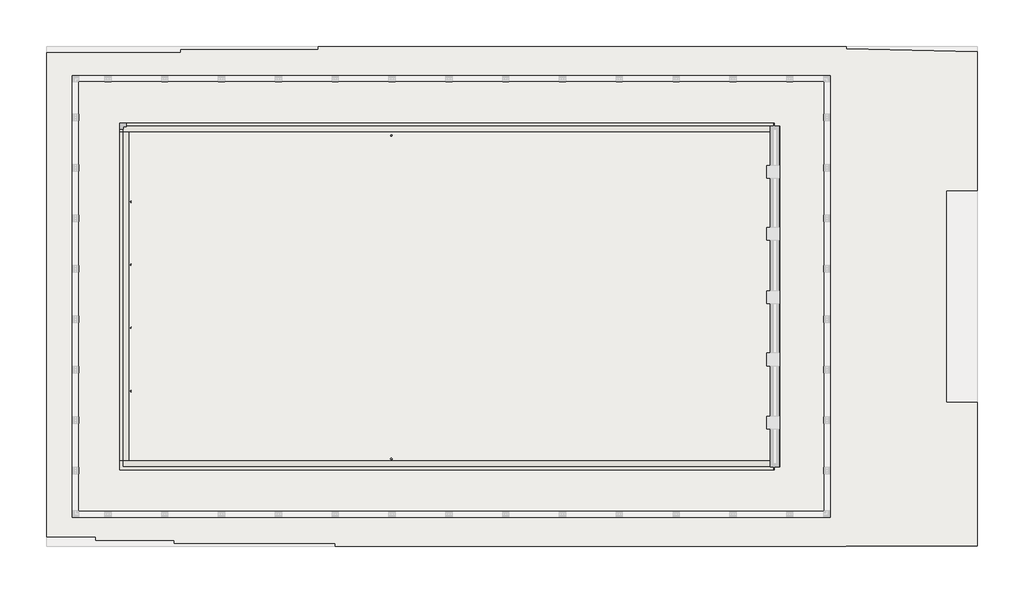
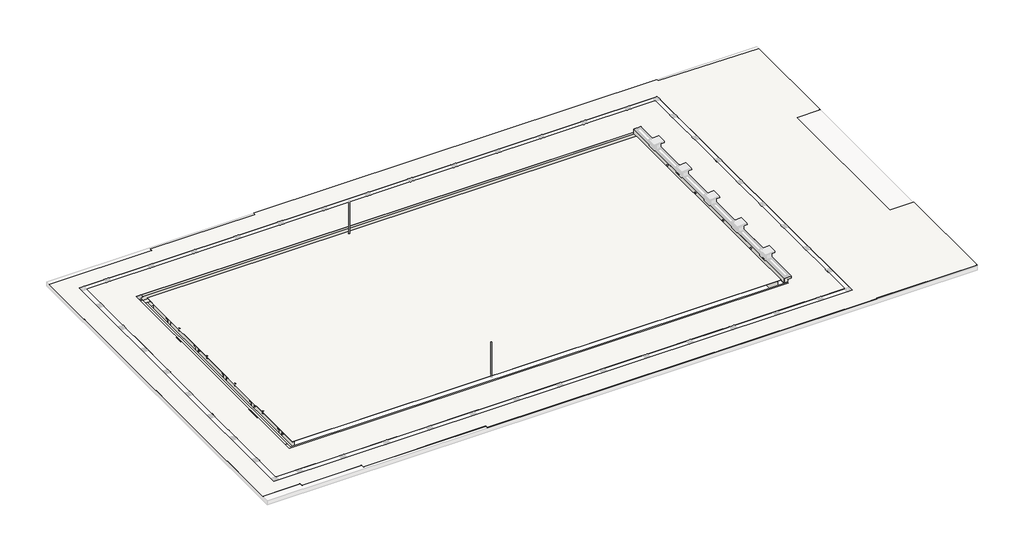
# One storey, part 1 of 2: 58 walls, 3 slabs.
"""IFC4 building model written with IfcOpenShell, lengths in millimetres."""

from ifc_helpers import new_model, si_unit, frame, origin, place, context, project, spatial, polyline, outline, extrude, faceted_brep, element, save

model = new_model("IFC4")

# Units and contexts
model_context = context("Model", 3, world=origin())
ifc_project = project(units=[si_unit("LENGTHUNIT", "METRE", prefix="MILLI")], contexts=[model_context])

# Site, building, storey
site = spatial("IfcSite", under=ifc_project)
building = spatial("IfcBuilding", under=site)
storey = spatial("IfcBuildingStorey", under=building, Name="1_NPlaya", Elevation=-0.4)

# Slabs
placement = place(None, origin())
element("IfcSlab", 1, ObjectType="Pieza 240 G1_Patrón Recto_Aqua_Indubeige_Pastilla", at=placement, inside=storey, context=model_context, shape_type="SweptSolid", body=[
    extrude(outline(polyline([(34679.434436, -40441.2851174), (5179.434436, -40441.2851174), (5179.434436, -23437.5814211), (34679.434436, -23437.5814211), (34679.434436, -40441.2851174)]), holes=[polyline([(32709.4610246, -25071.2511666), (6811.2523334, -25071.2511666), (6811.2523334, -38807.6153718), (32709.4610246, -38807.6153718), (32709.4610246, -38686.5241489), (32748.5344569, -38686.5241489), (32748.5344569, -25184.8423895), (32709.4610246, -25184.8423895), (32709.4610246, -25071.2511666)])]), frame((0.0, 0.0, -9.4), z_axis=(0.0, 0.0, 1.0), x_axis=(1.0, 0.0, 0.0)), (0.0, 0.0, 1.0), 9.0),
])
element("IfcSlab", 2, ObjectType="Pieza 240 G1_Patrón Recto_Aqua_Indubeige_Pastilla", at=placement, inside=storey, context=model_context, shape_type="SweptSolid", body=[
    extrude(outline(polyline([(3904.1150084, -41473.142119), (3904.1150084, -22284.6493469), (9212.926062, -22284.6493469), (9212.926062, -22159.5132537), (14659.6068821, -22159.5132537), (14659.6068821, -22034.3771605), (35576.7187676, -22034.3771605), (35576.7187676, -22128.21266), (40749.7221609, -22237.9898619), (40749.7221609, -27742.3371372), (39520.2946013, -27742.3371372), (39520.2946013, -36141.0489726), (40764.7102398, -36141.0489726), (40764.7102398, -41812.5386541), (35553.3960309, -41812.5386541), (35553.3960309, -41848.5666427), (15336.1978836, -41848.5666427), (15336.1978836, -41723.4167448), (8966.7975365, -41723.4167448), (8966.7975365, -41598.2806516), (5842.6017182, -41598.2806516), (5842.6017182, -41473.142119), (3904.1150084, -41473.142119)]), holes=[polyline([(4929.434436, -23187.5814211), (4929.434436, -40691.2851174), (34929.434436, -40691.2851174), (34929.434436, -23187.5814211), (4929.434436, -23187.5814211)])]), frame((0.0, 0.0, -9.4), z_axis=(0.0, 0.0, 1.0), x_axis=(1.0, 0.0, 0.0)), (0.0, 0.0, 1.0), 9.0),
])
element("IfcSlab", 3, ObjectType="Agua", at=placement, inside=storey, context=model_context, shape_type="SweptSolid", body=[
    extrude(outline(polyline([(32558.5344569, -25429.8423895), (32558.5344569, -38441.5241489), (7177.3435564, -38441.5241489), (7177.3435564, -25429.8423895), (32558.5344569, -25429.8423895)])), frame((0.0, 0.0, -1.4), z_axis=(0.0, 0.0, 1.0), x_axis=(1.0, 0.0, 0.0)), (0.0, 0.0, 1.0), 1.0),
])

# Walls
element("IfcWall", 4, ObjectType="Pieza 122 G1_Patrón Recto_Aqua_Marino_Liso", at=placement, inside=storey, context=model_context, shape_type="SweptSolid", body=[
    extrude(outline(polyline([(8297.6514198, -25680.4332692), (31561.2174523, -25680.4332692), (31561.2174523, -25689.4332692), (8297.6514198, -25689.4332692), (8297.6514198, -25680.4332692)])), frame((0.0, 0.0, -162.4), z_axis=(0.0, 0.0, 1.0), x_axis=(1.0, 0.0, 0.0)), (0.0, 0.0, 1.0), 125.0),
])
element("IfcWall", 5, ObjectType="Pieza 122 G1_Patrón Recto_Aqua_Azul_Anti-Slip", at=placement, inside=storey, context=model_context, shape_type="SweptSolid", body=[
    extrude(outline(polyline([(-38189.4332692, -912.4), (-38189.4332692, -162.4), (-37219.4598578, -162.4), (-37219.4598578, -412.4), (-37094.4598578, -412.4), (-37094.4598578, -912.4), (-38189.4332692, -912.4)])), frame((7420.434436, 0.0, 0.0), z_axis=(1.0, 0.0, 0.0), x_axis=(0.0, 1.0, 0.0)), (0.0, 0.0, 1.0), 9.0),
])
element("IfcWall", 6, ObjectType="Pieza 122 G1_Patrón Recto_Aqua_Azul_Anti-Slip", at=placement, inside=storey, context=model_context, shape_type="SweptSolid", body=[
    extrude(outline(polyline([(-36844.4598578, -912.4), (-36844.4598578, -412.4), (-36719.4598578, -412.4), (-36719.4598578, -162.4), (-34719.4598578, -162.4), (-34719.4598578, -412.4), (-34594.4598578, -412.4), (-34594.4598578, -912.4), (-36844.4598578, -912.4)])), frame((7420.434436, 0.0, 0.0), z_axis=(1.0, 0.0, 0.0), x_axis=(0.0, 1.0, 0.0)), (0.0, 0.0, 1.0), 9.0),
])
element("IfcWall", 7, ObjectType="Pieza 122 G1_Patrón Recto_Aqua_Marino_Anti-Slip", at=placement, inside=storey, context=model_context, shape_type="SweptSolid", body=[
    extrude(outline(polyline([(-37094.4598578, -162.4), (-37094.4598578, -37.4), (-36844.4598578, -37.4), (-36844.4598578, -162.4), (-36719.4598578, -162.4), (-36719.4598578, -412.4), (-36844.4598578, -412.4), (-36844.4598578, -912.4), (-37094.4598578, -912.4), (-37094.4598578, -412.4), (-37219.4598578, -412.4), (-37219.4598578, -162.4), (-37094.4598578, -162.4)])), frame((7420.434436, 0.0, 0.0), z_axis=(1.0, 0.0, 0.0), x_axis=(0.0, 1.0, 0.0)), (0.0, 0.0, 1.0), 9.0),
])
element("IfcWall", 8, ObjectType="Pieza 122 G1_Patrón Recto_Aqua_Marino_Anti-Slip", at=placement, inside=storey, context=model_context, shape_type="SweptSolid", body=[
    extrude(outline(polyline([(-34594.4598578, -162.4), (-34594.4598578, -37.4), (-34344.4598578, -37.4), (-34344.4598578, -162.4), (-34219.4598578, -162.4), (-34219.4598578, -412.4), (-34344.4598578, -412.4), (-34344.4598578, -912.4), (-34594.4598578, -912.4), (-34594.4598578, -412.4), (-34719.4598578, -412.4), (-34719.4598578, -162.4), (-34594.4598578, -162.4)])), frame((7420.434436, 0.0, 0.0), z_axis=(1.0, 0.0, 0.0), x_axis=(0.0, 1.0, 0.0)), (0.0, 0.0, 1.0), 9.0),
])
element("IfcWall", 9, ObjectType="Pieza 122 G1_Patrón Recto_Aqua_Marino_Anti-Slip", at=placement, inside=storey, context=model_context, shape_type="SweptSolid", body=[
    extrude(outline(polyline([(-32094.4598578, -162.4), (-32094.4598578, -37.4), (-31844.4598578, -37.4), (-31844.4598578, -162.4), (-31719.4598578, -162.4), (-31719.4598578, -412.4), (-31844.4598578, -412.4), (-31844.4598578, -912.4), (-32094.4598578, -912.4), (-32094.4598578, -412.4), (-32219.4598578, -412.4), (-32219.4598578, -162.4), (-32094.4598578, -162.4)])), frame((7420.434436, 0.0, 0.0), z_axis=(1.0, 0.0, 0.0), x_axis=(0.0, 1.0, 0.0)), (0.0, 0.0, 1.0), 9.0),
])
element("IfcWall", 10, ObjectType="Pieza 122 G1_Patrón Recto_Aqua_Marino_Anti-Slip", at=placement, inside=storey, context=model_context, shape_type="SweptSolid", body=[
    extrude(outline(polyline([(-29594.4598578, -162.4), (-29594.4598578, -37.4), (-29344.4598578, -37.4), (-29344.4598578, -162.4), (-29219.4598578, -162.4), (-29219.4598578, -412.4), (-29344.4598578, -412.4), (-29344.4598578, -912.4), (-29594.4598578, -912.4), (-29594.4598578, -412.4), (-29719.4598578, -412.4), (-29719.4598578, -162.4), (-29594.4598578, -162.4)])), frame((7420.434436, 0.0, 0.0), z_axis=(1.0, 0.0, 0.0), x_axis=(0.0, 1.0, 0.0)), (0.0, 0.0, 1.0), 9.0),
])
element("IfcWall", 11, ObjectType="Pieza 122 G1_Patrón Recto_Aqua_Marino_Anti-Slip", at=placement, inside=storey, context=model_context, shape_type="SweptSolid", body=[
    extrude(outline(polyline([(-27094.4598578, -162.4), (-27094.4598578, -37.4), (-26844.4598578, -37.4), (-26844.4598578, -162.4), (-26719.4598578, -162.4), (-26719.4598578, -412.4), (-26844.4598578, -412.4), (-26844.4598578, -912.4), (-27094.4598578, -912.4), (-27094.4598578, -412.4), (-27219.4598578, -412.4), (-27219.4598578, -162.4), (-27094.4598578, -162.4)])), frame((7420.434436, 0.0, 0.0), z_axis=(1.0, 0.0, 0.0), x_axis=(0.0, 1.0, 0.0)), (0.0, 0.0, 1.0), 9.0),
])
element("IfcWall", 12, ObjectType="Pieza 122 G1_Patrón Recto_Aqua_Azul_Anti-Slip", at=placement, inside=storey, context=model_context, shape_type="SweptSolid", body=[
    extrude(outline(polyline([(-34344.4598578, -912.4), (-34344.4598578, -412.4), (-34219.4598578, -412.4), (-34219.4598578, -162.4), (-32219.4598578, -162.4), (-32219.4598578, -412.4), (-32094.4598578, -412.4), (-32094.4598578, -912.4), (-34344.4598578, -912.4)])), frame((7420.434436, 0.0, 0.0), z_axis=(1.0, 0.0, 0.0), x_axis=(0.0, 1.0, 0.0)), (0.0, 0.0, 1.0), 9.0),
])
element("IfcWall", 13, ObjectType="Pieza 122 G1_Patrón Recto_Aqua_Azul_Anti-Slip", at=placement, inside=storey, context=model_context, shape_type="SweptSolid", body=[
    extrude(outline(polyline([(-31844.4598578, -912.4), (-31844.4598578, -412.4), (-31719.4598578, -412.4), (-31719.4598578, -162.4), (-29719.4598578, -162.4), (-29719.4598578, -412.4), (-29594.4598578, -412.4), (-29594.4598578, -912.4), (-31844.4598578, -912.4)])), frame((7420.434436, 0.0, 0.0), z_axis=(1.0, 0.0, 0.0), x_axis=(0.0, 1.0, 0.0)), (0.0, 0.0, 1.0), 9.0),
])
element("IfcWall", 14, ObjectType="Pieza 122 G1_Patrón Recto_Aqua_Azul_Anti-Slip", at=placement, inside=storey, context=model_context, shape_type="SweptSolid", body=[
    extrude(outline(polyline([(-29344.4598578, -912.4), (-29344.4598578, -412.4), (-29219.4598578, -412.4), (-29219.4598578, -162.4), (-27219.4598578, -162.4), (-27219.4598578, -412.4), (-27094.4598578, -412.4), (-27094.4598578, -912.4), (-29344.4598578, -912.4)])), frame((7420.434436, 0.0, 0.0), z_axis=(1.0, 0.0, 0.0), x_axis=(0.0, 1.0, 0.0)), (0.0, 0.0, 1.0), 9.0),
])
element("IfcWall", 15, ObjectType="Pieza 122 G1_Patrón Recto_Aqua_Azul_Anti-Slip", at=placement, inside=storey, context=model_context, shape_type="SweptSolid", body=[
    extrude(outline(polyline([(-26844.4598578, -912.4), (-26844.4598578, -412.4), (-26719.4598578, -412.4), (-26719.4598578, -162.4), (-25560.5970423, -162.4), (-25560.5970423, -912.4), (-26844.4598578, -912.4)])), frame((7420.434436, 0.0, 0.0), z_axis=(1.0, 0.0, 0.0), x_axis=(0.0, 1.0, 0.0)), (0.0, 0.0, 1.0), 9.0),
])
element("IfcWall", 16, ObjectType="Pieza 122 G1_Patrón Recto_Aqua_Azul_Anti-Slip", at=placement, inside=storey, context=model_context, shape_type="SweptSolid", body=[
    extrude(outline(polyline([(7429.434436, -37094.4598578), (7429.434436, -37219.4598578), (7420.434436, -37219.4598578), (7420.434436, -37094.4598578), (7429.434436, -37094.4598578)])), frame((0.0, 0.0, -162.4), z_axis=(0.0, 0.0, 1.0), x_axis=(1.0, 0.0, 0.0)), (0.0, 0.0, 1.0), 125.0),
])
element("IfcWall", 17, ObjectType="Pieza 122 G1_Patrón Recto_Aqua_Azul_Anti-Slip", at=placement, inside=storey, context=model_context, shape_type="SweptSolid", body=[
    extrude(outline(polyline([(7429.434436, -36719.4598578), (7429.434436, -36844.4598578), (7420.434436, -36844.4598578), (7420.434436, -36719.4598578), (7429.434436, -36719.4598578)])), frame((0.0, 0.0, -162.4), z_axis=(0.0, 0.0, 1.0), x_axis=(1.0, 0.0, 0.0)), (0.0, 0.0, 1.0), 125.0),
])
element("IfcWall", 18, ObjectType="Pieza 122 G1_Patrón Recto_Aqua_Azul_Anti-Slip", at=placement, inside=storey, context=model_context, shape_type="SweptSolid", body=[
    extrude(outline(polyline([(7429.434436, -34594.4598578), (7429.434436, -34719.4598578), (7420.434436, -34719.4598578), (7420.434436, -34594.4598578), (7429.434436, -34594.4598578)])), frame((0.0, 0.0, -162.4), z_axis=(0.0, 0.0, 1.0), x_axis=(1.0, 0.0, 0.0)), (0.0, 0.0, 1.0), 125.0),
])
element("IfcWall", 19, ObjectType="Pieza 122 G1_Patrón Recto_Aqua_Azul_Anti-Slip", at=placement, inside=storey, context=model_context, shape_type="SweptSolid", body=[
    extrude(outline(polyline([(7429.434436, -34219.4598578), (7429.434436, -34344.4598578), (7420.434436, -34344.4598578), (7420.434436, -34219.4598578), (7429.434436, -34219.4598578)])), frame((0.0, 0.0, -162.4), z_axis=(0.0, 0.0, 1.0), x_axis=(1.0, 0.0, 0.0)), (0.0, 0.0, 1.0), 125.0),
])
element("IfcWall", 20, ObjectType="Pieza 122 G1_Patrón Recto_Aqua_Azul_Anti-Slip", at=placement, inside=storey, context=model_context, shape_type="SweptSolid", body=[
    extrude(outline(polyline([(7429.434436, -32094.4598578), (7429.434436, -32219.4598578), (7420.434436, -32219.4598578), (7420.434436, -32094.4598578), (7429.434436, -32094.4598578)])), frame((0.0, 0.0, -162.4), z_axis=(0.0, 0.0, 1.0), x_axis=(1.0, 0.0, 0.0)), (0.0, 0.0, 1.0), 125.0),
])
element("IfcWall", 21, ObjectType="Pieza 122 G1_Patrón Recto_Aqua_Azul_Anti-Slip", at=placement, inside=storey, context=model_context, shape_type="SweptSolid", body=[
    extrude(outline(polyline([(7429.434436, -31719.4598578), (7429.434436, -31844.4598578), (7420.434436, -31844.4598578), (7420.434436, -31719.4598578), (7429.434436, -31719.4598578)])), frame((0.0, 0.0, -162.4), z_axis=(0.0, 0.0, 1.0), x_axis=(1.0, 0.0, 0.0)), (0.0, 0.0, 1.0), 125.0),
])
element("IfcWall", 22, ObjectType="Pieza 122 G1_Patrón Recto_Aqua_Azul_Anti-Slip", at=placement, inside=storey, context=model_context, shape_type="SweptSolid", body=[
    extrude(outline(polyline([(7429.434436, -29594.4598578), (7429.434436, -29719.4598578), (7420.434436, -29719.4598578), (7420.434436, -29594.4598578), (7429.434436, -29594.4598578)])), frame((0.0, 0.0, -162.4), z_axis=(0.0, 0.0, 1.0), x_axis=(1.0, 0.0, 0.0)), (0.0, 0.0, 1.0), 125.0),
])
element("IfcWall", 23, ObjectType="Pieza 122 G1_Patrón Recto_Aqua_Azul_Anti-Slip", at=placement, inside=storey, context=model_context, shape_type="SweptSolid", body=[
    extrude(outline(polyline([(7429.434436, -29219.4598578), (7429.434436, -29344.4598578), (7420.434436, -29344.4598578), (7420.434436, -29219.4598578), (7429.434436, -29219.4598578)])), frame((0.0, 0.0, -162.4), z_axis=(0.0, 0.0, 1.0), x_axis=(1.0, 0.0, 0.0)), (0.0, 0.0, 1.0), 125.0),
])
element("IfcWall", 24, ObjectType="Pieza 122 G1_Patrón Recto_Aqua_Azul_Anti-Slip", at=placement, inside=storey, context=model_context, shape_type="SweptSolid", body=[
    extrude(outline(polyline([(7429.434436, -27094.4598578), (7429.434436, -27219.4598578), (7420.434436, -27219.4598578), (7420.434436, -27094.4598578), (7429.434436, -27094.4598578)])), frame((0.0, 0.0, -162.4), z_axis=(0.0, 0.0, 1.0), x_axis=(1.0, 0.0, 0.0)), (0.0, 0.0, 1.0), 125.0),
])
element("IfcWall", 25, ObjectType="Pieza 122 G1_Patrón Recto_Aqua_Azul_Anti-Slip", at=placement, inside=storey, context=model_context, shape_type="SweptSolid", body=[
    extrude(outline(polyline([(7429.434436, -26719.4598578), (7429.434436, -26844.4598578), (7420.434436, -26844.4598578), (7420.434436, -26719.4598578), (7429.434436, -26719.4598578)])), frame((0.0, 0.0, -162.4), z_axis=(0.0, 0.0, 1.0), x_axis=(1.0, 0.0, 0.0)), (0.0, 0.0, 1.0), 125.0),
])
element("IfcWall", 26, ObjectType="Pieza 122 G1_Patrón Recto_Aqua_Azul_Anti-Slip", at=placement, inside=storey, context=model_context, shape_type="SweptSolid", body=[
    extrude(outline(polyline([(-25560.5970423, -912.4), (-26844.4598578, -912.4), (-26844.4598578, -412.4), (-26719.4598578, -412.4), (-26719.4598578, -162.4), (-25560.5970423, -162.4), (-25560.5970423, -912.4)])), frame((32429.434436, 0.0, 0.0), z_axis=(1.0, 0.0, 0.0), x_axis=(0.0, 1.0, 0.0)), (0.0, 0.0, 1.0), 9.0),
])
element("IfcWall", 27, ObjectType="Pieza 122 G1_Patrón Recto_Aqua_Azul_Anti-Slip", at=placement, inside=storey, context=model_context, shape_type="SweptSolid", body=[
    extrude(outline(polyline([(-27094.4598578, -912.4), (-29344.4598578, -912.4), (-29344.4598578, -412.4), (-29219.4598578, -412.4), (-29219.4598578, -162.4), (-27219.4598578, -162.4), (-27219.4598578, -412.4), (-27094.4598578, -412.4), (-27094.4598578, -912.4)])), frame((32429.434436, 0.0, 0.0), z_axis=(1.0, 0.0, 0.0), x_axis=(0.0, 1.0, 0.0)), (0.0, 0.0, 1.0), 9.0),
])
element("IfcWall", 28, ObjectType="Pieza 122 G1_Patrón Recto_Aqua_Marino_Anti-Slip", at=placement, inside=storey, context=model_context, shape_type="SweptSolid", body=[
    extrude(outline(polyline([(-26844.4598578, -162.4), (-26719.4598578, -162.4), (-26719.4598578, -412.4), (-26844.4598578, -412.4), (-26844.4598578, -912.4), (-27094.4598578, -912.4), (-27094.4598578, -412.4), (-27219.4598578, -412.4), (-27219.4598578, -162.4), (-27094.4598578, -162.4), (-27094.4598578, -37.4), (-26844.4598578, -37.4), (-26844.4598578, -162.4)])), frame((32429.434436, 0.0, 0.0), z_axis=(1.0, 0.0, 0.0), x_axis=(0.0, 1.0, 0.0)), (0.0, 0.0, 1.0), 9.0),
])
element("IfcWall", 29, ObjectType="Pieza 122 G1_Patrón Recto_Aqua_Marino_Anti-Slip", at=placement, inside=storey, context=model_context, shape_type="SweptSolid", body=[
    extrude(outline(polyline([(-29344.4598578, -162.4), (-29219.4598578, -162.4), (-29219.4598578, -412.4), (-29344.4598578, -412.4), (-29344.4598578, -912.4), (-29594.4598578, -912.4), (-29594.4598578, -412.4), (-29719.4598578, -412.4), (-29719.4598578, -162.4), (-29594.4598578, -162.4), (-29594.4598578, -37.4), (-29344.4598578, -37.4), (-29344.4598578, -162.4)])), frame((32429.434436, 0.0, 0.0), z_axis=(1.0, 0.0, 0.0), x_axis=(0.0, 1.0, 0.0)), (0.0, 0.0, 1.0), 9.0),
])
element("IfcWall", 30, ObjectType="Pieza 122 G1_Patrón Recto_Aqua_Marino_Anti-Slip", at=placement, inside=storey, context=model_context, shape_type="SweptSolid", body=[
    extrude(outline(polyline([(-31844.4598578, -162.4), (-31719.4598578, -162.4), (-31719.4598578, -412.4), (-31844.4598578, -412.4), (-31844.4598578, -912.4), (-32094.4598578, -912.4), (-32094.4598578, -412.4), (-32219.4598578, -412.4), (-32219.4598578, -162.4), (-32094.4598578, -162.4), (-32094.4598578, -37.4), (-31844.4598578, -37.4), (-31844.4598578, -162.4)])), frame((32429.434436, 0.0, 0.0), z_axis=(1.0, 0.0, 0.0), x_axis=(0.0, 1.0, 0.0)), (0.0, 0.0, 1.0), 9.0),
])
element("IfcWall", 31, ObjectType="Pieza 122 G1_Patrón Recto_Aqua_Marino_Anti-Slip", at=placement, inside=storey, context=model_context, shape_type="SweptSolid", body=[
    extrude(outline(polyline([(-34344.4598578, -162.4), (-34219.4598578, -162.4), (-34219.4598578, -412.4), (-34344.4598578, -412.4), (-34344.4598578, -912.4), (-34594.4598578, -912.4), (-34594.4598578, -412.4), (-34719.4598578, -412.4), (-34719.4598578, -162.4), (-34594.4598578, -162.4), (-34594.4598578, -37.4), (-34344.4598578, -37.4), (-34344.4598578, -162.4)])), frame((32429.434436, 0.0, 0.0), z_axis=(1.0, 0.0, 0.0), x_axis=(0.0, 1.0, 0.0)), (0.0, 0.0, 1.0), 9.0),
])
element("IfcWall", 32, ObjectType="Pieza 122 G1_Patrón Recto_Aqua_Marino_Anti-Slip", at=placement, inside=storey, context=model_context, shape_type="SweptSolid", body=[
    extrude(outline(polyline([(-36844.4598578, -162.4), (-36719.4598578, -162.4), (-36719.4598578, -412.4), (-36844.4598578, -412.4), (-36844.4598578, -912.4), (-37094.4598578, -912.4), (-37094.4598578, -412.4), (-37219.4598578, -412.4), (-37219.4598578, -162.4), (-37094.4598578, -162.4), (-37094.4598578, -37.4), (-36844.4598578, -37.4), (-36844.4598578, -162.4)])), frame((32429.434436, 0.0, 0.0), z_axis=(1.0, 0.0, 0.0), x_axis=(0.0, 1.0, 0.0)), (0.0, 0.0, 1.0), 9.0),
])
element("IfcWall", 33, ObjectType="Pieza 122 G1_Patrón Recto_Aqua_Azul_Anti-Slip", at=placement, inside=storey, context=model_context, shape_type="SweptSolid", body=[
    extrude(outline(polyline([(-29594.4598578, -912.4), (-31844.4598578, -912.4), (-31844.4598578, -412.4), (-31719.4598578, -412.4), (-31719.4598578, -162.4), (-29719.4598578, -162.4), (-29719.4598578, -412.4), (-29594.4598578, -412.4), (-29594.4598578, -912.4)])), frame((32429.434436, 0.0, 0.0), z_axis=(1.0, 0.0, 0.0), x_axis=(0.0, 1.0, 0.0)), (0.0, 0.0, 1.0), 9.0),
])
element("IfcWall", 34, ObjectType="Pieza 122 G1_Patrón Recto_Aqua_Azul_Anti-Slip", at=placement, inside=storey, context=model_context, shape_type="SweptSolid", body=[
    extrude(outline(polyline([(-32094.4598578, -912.4), (-34344.4598578, -912.4), (-34344.4598578, -412.4), (-34219.4598578, -412.4), (-34219.4598578, -162.4), (-32219.4598578, -162.4), (-32219.4598578, -412.4), (-32094.4598578, -412.4), (-32094.4598578, -912.4)])), frame((32429.434436, 0.0, 0.0), z_axis=(1.0, 0.0, 0.0), x_axis=(0.0, 1.0, 0.0)), (0.0, 0.0, 1.0), 9.0),
])
element("IfcWall", 35, ObjectType="Pieza 122 G1_Patrón Recto_Aqua_Azul_Anti-Slip", at=placement, inside=storey, context=model_context, shape_type="SweptSolid", body=[
    extrude(outline(polyline([(-34594.4598578, -912.4), (-36844.4598578, -912.4), (-36844.4598578, -412.4), (-36719.4598578, -412.4), (-36719.4598578, -162.4), (-34719.4598578, -162.4), (-34719.4598578, -412.4), (-34594.4598578, -412.4), (-34594.4598578, -912.4)])), frame((32429.434436, 0.0, 0.0), z_axis=(1.0, 0.0, 0.0), x_axis=(0.0, 1.0, 0.0)), (0.0, 0.0, 1.0), 9.0),
])
element("IfcWall", 36, ObjectType="Pieza 122 G1_Patrón Recto_Aqua_Azul_Anti-Slip", at=placement, inside=storey, context=model_context, shape_type="SweptSolid", body=[
    extrude(outline(polyline([(-37094.4598578, -912.4), (-38318.2532396, -912.4), (-38318.2532396, -162.4), (-37219.4598578, -162.4), (-37219.4598578, -412.4), (-37094.4598578, -412.4), (-37094.4598578, -912.4)])), frame((32429.434436, 0.0, 0.0), z_axis=(1.0, 0.0, 0.0), x_axis=(0.0, 1.0, 0.0)), (0.0, 0.0, 1.0), 9.0),
])
element("IfcWall", 37, ObjectType="Pieza 122 G1_Patrón Recto_Aqua_Marino_Anti-Slip", at=placement, inside=storey, context=model_context, shape_type="SweptSolid", body=[
    extrude(outline(polyline([(32429.434436, -26719.4598578), (32429.434436, -25560.5970423), (32438.434436, -25560.5970423), (32438.434436, -26719.4598578), (32429.434436, -26719.4598578)])), frame((0.0, 0.0, -162.4), z_axis=(0.0, 0.0, 1.0), x_axis=(1.0, 0.0, 0.0)), (0.0, 0.0, 1.0), 125.0),
])
element("IfcWall", 38, ObjectType="Pieza 122 G1_Patrón Recto_Aqua_Marino_Anti-Slip", at=placement, inside=storey, context=model_context, shape_type="SweptSolid", body=[
    extrude(outline(polyline([(32429.434436, -29219.4598578), (32429.434436, -27219.4598578), (32438.434436, -27219.4598578), (32438.434436, -29219.4598578), (32429.434436, -29219.4598578)])), frame((0.0, 0.0, -162.4), z_axis=(0.0, 0.0, 1.0), x_axis=(1.0, 0.0, 0.0)), (0.0, 0.0, 1.0), 125.0),
])
element("IfcWall", 39, ObjectType="Pieza 122 G1_Patrón Recto_Aqua_Marino_Anti-Slip", at=placement, inside=storey, context=model_context, shape_type="SweptSolid", body=[
    extrude(outline(polyline([(32429.434436, -31719.4598578), (32429.434436, -29719.4598578), (32438.434436, -29719.4598578), (32438.434436, -31719.4598578), (32429.434436, -31719.4598578)])), frame((0.0, 0.0, -162.4), z_axis=(0.0, 0.0, 1.0), x_axis=(1.0, 0.0, 0.0)), (0.0, 0.0, 1.0), 125.0),
])
element("IfcWall", 40, ObjectType="Pieza 122 G1_Patrón Recto_Aqua_Marino_Anti-Slip", at=placement, inside=storey, context=model_context, shape_type="SweptSolid", body=[
    extrude(outline(polyline([(32429.434436, -34219.4598578), (32429.434436, -32219.4598578), (32438.434436, -32219.4598578), (32438.434436, -34219.4598578), (32429.434436, -34219.4598578)])), frame((0.0, 0.0, -162.4), z_axis=(0.0, 0.0, 1.0), x_axis=(1.0, 0.0, 0.0)), (0.0, 0.0, 1.0), 125.0),
])
element("IfcWall", 41, ObjectType="Pieza 122 G1_Patrón Recto_Aqua_Marino_Anti-Slip", at=placement, inside=storey, context=model_context, shape_type="SweptSolid", body=[
    extrude(outline(polyline([(32429.434436, -36719.4598578), (32429.434436, -34719.4598578), (32438.434436, -34719.4598578), (32438.434436, -36719.4598578), (32429.434436, -36719.4598578)])), frame((0.0, 0.0, -162.4), z_axis=(0.0, 0.0, 1.0), x_axis=(1.0, 0.0, 0.0)), (0.0, 0.0, 1.0), 125.0),
])
element("IfcWall", 42, ObjectType="Pieza 122 G1_Patrón Recto_Aqua_Marino_Anti-Slip", at=placement, inside=storey, context=model_context, shape_type="SweptSolid", body=[
    extrude(outline(polyline([(32429.434436, -38318.2532396), (32429.434436, -37219.4598578), (32438.434436, -37219.4598578), (32438.434436, -38318.2532396), (32429.434436, -38318.2532396)])), frame((0.0, 0.0, -162.4), z_axis=(0.0, 0.0, 1.0), x_axis=(1.0, 0.0, 0.0)), (0.0, 0.0, 1.0), 125.0),
])
element("IfcWall", 43, ObjectType="Pieza 122 G1_Patrón Recto_Aqua_Azul_Anti-Slip", at=placement, inside=storey, context=model_context, shape_type="SweptSolid", body=[
    extrude(outline(polyline([(32429.434436, -26844.4598578), (32429.434436, -26719.4598578), (32438.434436, -26719.4598578), (32438.434436, -26844.4598578), (32429.434436, -26844.4598578)])), frame((0.0, 0.0, -162.4), z_axis=(0.0, 0.0, 1.0), x_axis=(1.0, 0.0, 0.0)), (0.0, 0.0, 1.0), 125.0),
])
element("IfcWall", 44, ObjectType="Pieza 122 G1_Patrón Recto_Aqua_Azul_Anti-Slip", at=placement, inside=storey, context=model_context, shape_type="SweptSolid", body=[
    extrude(outline(polyline([(32429.434436, -27219.4598578), (32429.434436, -27094.4598578), (32438.434436, -27094.4598578), (32438.434436, -27219.4598578), (32429.434436, -27219.4598578)])), frame((0.0, 0.0, -162.4), z_axis=(0.0, 0.0, 1.0), x_axis=(1.0, 0.0, 0.0)), (0.0, 0.0, 1.0), 125.0),
])
element("IfcWall", 45, ObjectType="Pieza 122 G1_Patrón Recto_Aqua_Azul_Anti-Slip", at=placement, inside=storey, context=model_context, shape_type="SweptSolid", body=[
    extrude(outline(polyline([(32429.434436, -29344.4598578), (32429.434436, -29219.4598578), (32438.434436, -29219.4598578), (32438.434436, -29344.4598578), (32429.434436, -29344.4598578)])), frame((0.0, 0.0, -162.4), z_axis=(0.0, 0.0, 1.0), x_axis=(1.0, 0.0, 0.0)), (0.0, 0.0, 1.0), 125.0),
])
element("IfcWall", 46, ObjectType="Pieza 122 G1_Patrón Recto_Aqua_Azul_Anti-Slip", at=placement, inside=storey, context=model_context, shape_type="SweptSolid", body=[
    extrude(outline(polyline([(32429.434436, -29719.4598578), (32429.434436, -29594.4598578), (32438.434436, -29594.4598578), (32438.434436, -29719.4598578), (32429.434436, -29719.4598578)])), frame((0.0, 0.0, -162.4), z_axis=(0.0, 0.0, 1.0), x_axis=(1.0, 0.0, 0.0)), (0.0, 0.0, 1.0), 125.0),
])
element("IfcWall", 47, ObjectType="Pieza 122 G1_Patrón Recto_Aqua_Azul_Anti-Slip", at=placement, inside=storey, context=model_context, shape_type="SweptSolid", body=[
    extrude(outline(polyline([(32429.434436, -31844.4598578), (32429.434436, -31719.4598578), (32438.434436, -31719.4598578), (32438.434436, -31844.4598578), (32429.434436, -31844.4598578)])), frame((0.0, 0.0, -162.4), z_axis=(0.0, 0.0, 1.0), x_axis=(1.0, 0.0, 0.0)), (0.0, 0.0, 1.0), 125.0),
])
element("IfcWall", 48, ObjectType="Pieza 122 G1_Patrón Recto_Aqua_Azul_Anti-Slip", at=placement, inside=storey, context=model_context, shape_type="SweptSolid", body=[
    extrude(outline(polyline([(32429.434436, -32219.4598578), (32429.434436, -32094.4598578), (32438.434436, -32094.4598578), (32438.434436, -32219.4598578), (32429.434436, -32219.4598578)])), frame((0.0, 0.0, -162.4), z_axis=(0.0, 0.0, 1.0), x_axis=(1.0, 0.0, 0.0)), (0.0, 0.0, 1.0), 125.0),
])
element("IfcWall", 49, ObjectType="Pieza 122 G1_Patrón Recto_Aqua_Azul_Anti-Slip", at=placement, inside=storey, context=model_context, shape_type="SweptSolid", body=[
    extrude(outline(polyline([(32429.434436, -34344.4598578), (32429.434436, -34219.4598578), (32438.434436, -34219.4598578), (32438.434436, -34344.4598578), (32429.434436, -34344.4598578)])), frame((0.0, 0.0, -162.4), z_axis=(0.0, 0.0, 1.0), x_axis=(1.0, 0.0, 0.0)), (0.0, 0.0, 1.0), 125.0),
])
element("IfcWall", 50, ObjectType="Pieza 122 G1_Patrón Recto_Aqua_Azul_Anti-Slip", at=placement, inside=storey, context=model_context, shape_type="SweptSolid", body=[
    extrude(outline(polyline([(32429.434436, -34719.4598578), (32429.434436, -34594.4598578), (32438.434436, -34594.4598578), (32438.434436, -34719.4598578), (32429.434436, -34719.4598578)])), frame((0.0, 0.0, -162.4), z_axis=(0.0, 0.0, 1.0), x_axis=(1.0, 0.0, 0.0)), (0.0, 0.0, 1.0), 125.0),
])
element("IfcWall", 51, ObjectType="Pieza 122 G1_Patrón Recto_Aqua_Azul_Anti-Slip", at=placement, inside=storey, context=model_context, shape_type="SweptSolid", body=[
    extrude(outline(polyline([(32429.434436, -36844.4598578), (32429.434436, -36719.4598578), (32438.434436, -36719.4598578), (32438.434436, -36844.4598578), (32429.434436, -36844.4598578)])), frame((0.0, 0.0, -162.4), z_axis=(0.0, 0.0, 1.0), x_axis=(1.0, 0.0, 0.0)), (0.0, 0.0, 1.0), 125.0),
])
element("IfcWall", 52, ObjectType="Pieza 122 G1_Patrón Recto_Aqua_Azul_Anti-Slip", at=placement, inside=storey, context=model_context, shape_type="SweptSolid", body=[
    extrude(outline(polyline([(32429.434436, -37219.4598578), (32429.434436, -37094.4598578), (32438.434436, -37094.4598578), (32438.434436, -37219.4598578), (32429.434436, -37219.4598578)])), frame((0.0, 0.0, -162.4), z_axis=(0.0, 0.0, 1.0), x_axis=(1.0, 0.0, 0.0)), (0.0, 0.0, 1.0), 125.0),
])
element("IfcWall", 53, ObjectType="Pieza 122 G1_Patrón Recto_Aqua_Azul_Liso", at=placement, inside=storey, context=model_context, shape_type="Brep", body=[
    faceted_brep([(32558.5344569, -38686.5241489, -0.4), (32748.5344569, -38686.5241489, -0.4), (32748.5344569, -38686.5241489, 119.6), (32928.8615326, -38686.5241489, 119.6), (32928.8615326, -38686.5241489, 240.6), (32558.5344569, -38686.5241489, 240.6), (32558.5344569, -38677.5241489, -0.4), (32558.5344569, -38677.5241489, 240.6), (32567.5344569, -38677.5241489, 240.6), (32919.8615326, -38677.5241489, 240.6), (32928.8615326, -38677.5241489, 240.6), (32928.8615326, -38677.5241489, 119.6), (32919.8615326, -38677.5241489, 119.6), (32748.5344569, -38677.5241489, 119.6), (32748.5344569, -38677.5241489, -0.4), (32739.5344569, -38677.5241489, -0.4)], [[[0, 1, 2, 3, 4, 5]], [[6, 7, 8, 9, 10, 11, 12, 13, 14, 15]], [[0, 5, 7, 6]], [[4, 3, 11, 10]], [[1, 0, 6, 15, 14]], [[5, 4, 10, 9, 8, 7]], [[3, 2, 13, 12, 11]], [[2, 1, 14, 13]]]),
])
element("IfcWall", 54, ObjectType="Pieza 122 G1_Patrón Recto_Aqua_Azul_Liso", at=placement, inside=storey, context=model_context, shape_type="Brep", body=[
    faceted_brep([(32567.5344569, -38677.5241489, -9.4), (32567.5344569, -25184.8423895, -9.4), (32567.5344569, -25184.8423895, -0.4), (32567.5344569, -25184.8423895, 240.6), (32567.5344569, -25193.8423895, 240.6), (32567.5344569, -38677.5241489, 240.6), (32558.5344569, -38677.5241489, -9.4), (32558.5344569, -38677.5241489, -0.4), (32558.5344569, -38677.5241489, 240.6), (32558.5344569, -25184.8423895, 240.6), (32558.5344569, -25184.8423895, -9.4)], [[[0, 1, 2, 3, 4, 5]], [[6, 7, 8, 9, 10]], [[1, 0, 6, 10]], [[5, 4, 3, 9, 8]], [[0, 5, 8, 7, 6]], [[3, 2, 1, 10, 9]]]),
])
element("IfcWall", 55, ObjectType="Pieza 122 G1_Patrón Recto_Aqua_Azul_Liso", at=placement, inside=storey, context=model_context, shape_type="Brep", body=[
    faceted_brep([(32567.5344569, -25193.8423895, -0.4), (32739.5344569, -25193.8423895, -0.4), (32748.5344569, -25193.8423895, -0.4), (32748.5344569, -25193.8423895, 119.6), (32919.8615326, -25193.8423895, 119.6), (32928.8615326, -25193.8423895, 119.6), (32928.8615326, -25193.8423895, 240.6), (32919.8615326, -25193.8423895, 240.6), (32567.5344569, -25193.8423895, 240.6), (32567.5344569, -25184.8423895, -0.4), (32567.5344569, -25184.8423895, 240.6), (32928.8615326, -25184.8423895, 240.6), (32928.8615326, -25184.8423895, 119.6), (32748.5344569, -25184.8423895, 119.6), (32748.5344569, -25184.8423895, -0.4)], [[[0, 1, 2, 3, 4, 5, 6, 7, 8]], [[9, 10, 11, 12, 13, 14]], [[0, 8, 10, 9]], [[6, 5, 12, 11]], [[2, 1, 0, 9, 14]], [[8, 7, 6, 11, 10]], [[5, 4, 3, 13, 12]], [[3, 2, 14, 13]]]),
])
element("IfcWall", 56, ObjectType="Pieza 122 G1_Patrón Recto_Aqua_Azul_Liso", at=placement, inside=storey, context=model_context, shape_type="SweptSolid", body=[
    extrude(outline(polyline([(32919.8615326, -38677.5241489), (32919.8615326, -25193.8423895), (32928.8615326, -25193.8423895), (32928.8615326, -38677.5241489), (32919.8615326, -38677.5241489)])), frame((0.0, 0.0, 119.6), z_axis=(0.0, 0.0, 1.0), x_axis=(1.0, 0.0, 0.0)), (0.0, 0.0, 1.0), 121.0),
])
element("IfcWall", 57, ObjectType="Pieza 122 G1_Patrón Recto_Aqua_Azul_Liso", at=placement, inside=storey, context=model_context, shape_type="SweptSolid", body=[
    extrude(outline(polyline([(32739.5344569, -38677.5241489), (32739.5344569, -25193.8423895), (32748.5344569, -25193.8423895), (32748.5344569, -38677.5241489), (32739.5344569, -38677.5241489)])), frame((0.0, 0.0, -0.4), z_axis=(0.0, 0.0, 1.0), x_axis=(1.0, 0.0, 0.0)), (0.0, 0.0, 1.0), 120.0),
])
element("IfcWall", 58, ObjectType="GENÉRICO_ZUNCHO PISCINA ERGO_41cm", at=placement, inside=storey, context=model_context, shape_type="Brep", body=[
    faceted_brep([(32688.734436, -25430.1286078, -510.4), (32688.734436, -25430.1286078, -230.4), (7169.1610246, -25430.1286078, -230.4), (6916.9610246, -25430.1286078, -230.4), (6916.9610246, -25430.1286078, -15.4), (6759.1610246, -25430.1286078, -15.4), (6759.1610246, -25430.1286078, -410.4), (7169.1610246, -25430.1286078, -510.4), (6759.1610246, -25020.1286078, -15.4), (32688.734436, -25020.1286078, -15.4), (32688.734436, -25020.1286078, -410.4), (6759.1610246, -25020.1286078, -410.4), (32688.734436, -25177.9286078, -15.4), (32688.734436, -25177.9286078, -230.4), (6916.9610246, -25177.9286078, -15.4), (6916.9610246, -25177.9286078, -230.4)], [[[0, 1, 2, 3, 4, 5, 6, 7]], [[8, 9, 10, 11]], [[1, 0, 10, 9, 12, 13]], [[9, 8, 5, 4, 14, 12]], [[14, 15, 13, 12]], [[7, 11, 10, 0]], [[5, 8, 11, 6]], [[15, 14, 4, 3]], [[13, 15, 3, 2, 1]], [[11, 7, 6]]]),
])
element("IfcWall", 59, ObjectType="GENÉRICO_ZUNCHO PISCINA ERGO_41cm", at=placement, inside=storey, context=model_context, shape_type="Brep", body=[
    faceted_brep([(32688.734436, -38858.7332692, -15.4), (6759.1610246, -38858.7332692, -15.4), (6759.1610246, -38858.7332692, -410.4), (32688.734436, -38858.7332692, -410.4), (6759.1610246, -38448.7332692, -410.4), (6759.1610246, -38448.7332692, -15.4), (6916.9610246, -38448.7332692, -15.4), (6916.9610246, -38448.7332692, -230.4), (7169.1610246, -38448.7332692, -230.4), (32688.734436, -38448.7332692, -230.4), (32688.734436, -38448.7332692, -510.4), (7169.1610246, -38448.7332692, -510.4), (32688.734436, -38700.9332692, -230.4), (32688.734436, -38700.9332692, -15.4), (6916.9610246, -38700.9332692, -15.4), (6916.9610246, -38700.9332692, -230.4)], [[[0, 1, 2, 3]], [[4, 5, 6, 7, 8, 9, 10, 11]], [[0, 3, 10, 9, 12, 13]], [[1, 0, 13, 14, 6, 5]], [[12, 15, 14, 13]], [[2, 11, 10, 3]], [[1, 5, 4, 2]], [[15, 12, 9, 8, 7]], [[14, 15, 7, 6]], [[11, 2, 4]]]),
])
element("IfcWall", 60, ObjectType="GENÉRICO_ZUNCHO PISCINA ERGO_41cm", at=placement, inside=storey, context=model_context, shape_type="SweptSolid", body=[
    extrude(outline(polyline([(-15.4, 6759.1610246), (-410.4, 6759.1610246), (-510.4, 7169.1610246), (-230.4, 7169.1610246), (-230.4, 6916.9610246), (-15.4, 6916.9610246), (-15.4, 6759.1610246)])), frame((0.0, -38448.7332692, 0.0), z_axis=(0.0, 1.0, 0.0), x_axis=(0.0, 0.0, 1.0)), (0.0, 0.0, 1.0), 13018.6046614),
])
element("IfcWall", 61, ObjectType="GENÉRICO_MURO CONTENCIÓN PISCINA_Estructura_17 cm", at=placement, inside=storey, context=model_context, shape_type="SweptSolid", body=[
    extrude(outline(polyline([(32567.5344569, -38677.5241489), (32567.5344569, -25193.8423895), (32737.5344569, -25193.8423895), (32737.5344569, -38677.5241489), (32567.5344569, -38677.5241489)])), frame((0.0, 0.0, -37.4), z_axis=(0.0, 0.0, 1.0), x_axis=(1.0, 0.0, 0.0)), (0.0, 0.0, 1.0), 167.1),
])

save(model, "model.ifc")
